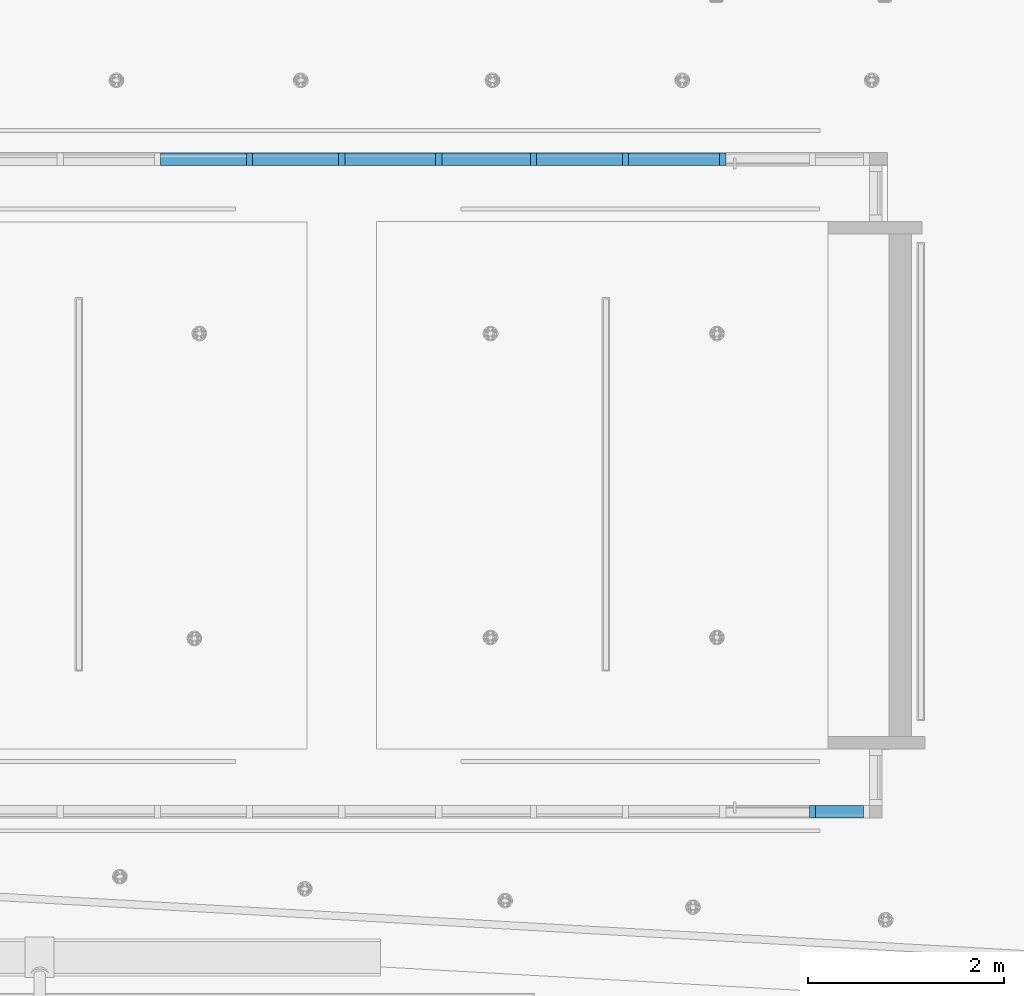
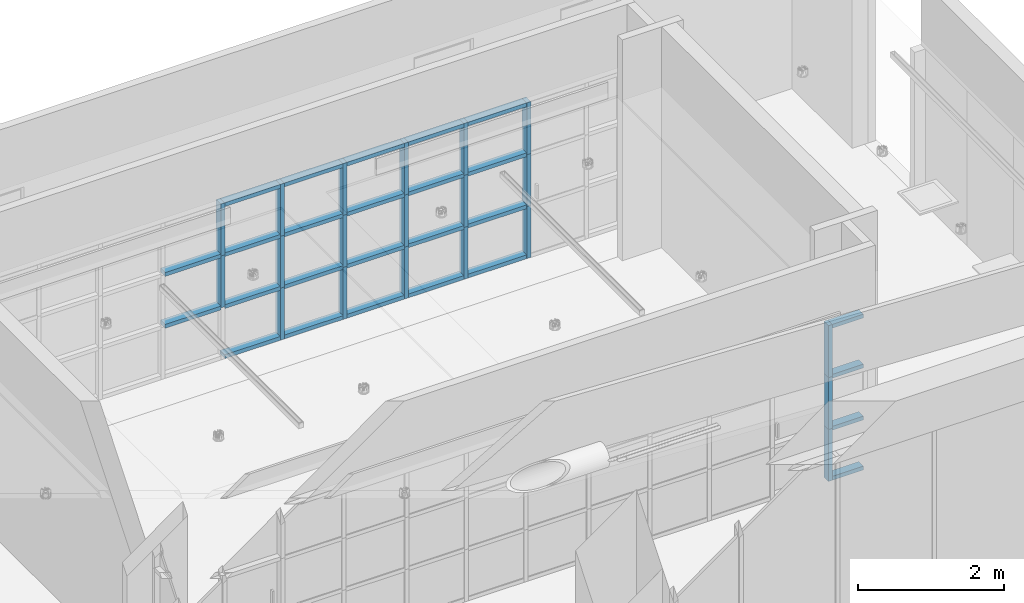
# One storey, part 9 of 108: 46 members, 2 elements without a shape of their own.
"""IFC4 building model written with IfcOpenShell, lengths in feet."""

from ifc_helpers import new_model, entity, si_unit, converted_unit, derived_unit, direction, frame, origin, origin_2d_with_axis, place, context, subcontext, project, spatial, rectangle, extrude, source, transform, mapped, material, material_profile, profile_set, profile_usage, type_object, type_shapes, element, aggregate, save


model = new_model("IFC4")

# Units and contexts
model_context = context("Model", 3, precision=0.0001, world=origin(), true_north=direction((6.12303176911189e-17, 1.0)))
body_context = subcontext(model_context, "Body", "Model", "MODEL_VIEW")
ifc_project = project(units=[converted_unit("LENGTHUNIT", "FOOT", entity("IfcRatioMeasure", 0.3048), si_unit("LENGTHUNIT", "METRE"), dimensions=[1, 0, 0, 0, 0, 0, 0]), converted_unit("AREAUNIT", "SQUARE FOOT", entity("IfcRatioMeasure", 0.09290304), si_unit("AREAUNIT", "SQUARE_METRE"), dimensions=[2, 0, 0, 0, 0, 0, 0]), converted_unit("VOLUMEUNIT", "CUBIC FOOT", entity("IfcRatioMeasure", 0.028316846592), si_unit("VOLUMEUNIT", "CUBIC_METRE"), dimensions=[3, 0, 0, 0, 0, 0, 0]), converted_unit("PLANEANGLEUNIT", "DEGREE", entity("IfcRatioMeasure", 0.0174532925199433), si_unit("PLANEANGLEUNIT", "RADIAN"), dimensions=[0, 0, 0, 0, 0, 0, 0]), si_unit("MASSUNIT", "GRAM", prefix="KILO"), derived_unit("MASSDENSITYUNIT", [(si_unit("MASSUNIT", "GRAM", prefix="KILO"), 1), (si_unit("LENGTHUNIT", "METRE"), -3)]), si_unit("TIMEUNIT", "SECOND"), si_unit("FREQUENCYUNIT", "HERTZ"), si_unit("THERMODYNAMICTEMPERATUREUNIT", "DEGREE_CELSIUS"), derived_unit("THERMALTRANSMITTANCEUNIT", [(si_unit("MASSUNIT", "GRAM", prefix="KILO"), 1), (si_unit("THERMODYNAMICTEMPERATUREUNIT", "KELVIN"), -1), (si_unit("TIMEUNIT", "SECOND"), -3)]), derived_unit("VOLUMETRICFLOWRATEUNIT", [(si_unit("LENGTHUNIT", "METRE"), 3), (si_unit("TIMEUNIT", "SECOND"), -1)]), si_unit("ELECTRICCURRENTUNIT", "AMPERE"), si_unit("ELECTRICVOLTAGEUNIT", "VOLT"), si_unit("POWERUNIT", "WATT"), si_unit("FORCEUNIT", "NEWTON"), si_unit("ILLUMINANCEUNIT", "LUX"), si_unit("LUMINOUSFLUXUNIT", "LUMEN"), si_unit("LUMINOUSINTENSITYUNIT", "CANDELA"), derived_unit("USERDEFINED", [(si_unit("MASSUNIT", "GRAM", prefix="KILO"), -1), (si_unit("LENGTHUNIT", "METRE"), -2), (si_unit("TIMEUNIT", "SECOND"), 3), (si_unit("LUMINOUSFLUXUNIT", "LUMEN"), 1)]), derived_unit("LINEARVELOCITYUNIT", [(si_unit("LENGTHUNIT", "METRE"), 1), (si_unit("TIMEUNIT", "SECOND"), -1)]), si_unit("PRESSUREUNIT", "PASCAL"), derived_unit("USERDEFINED", [(si_unit("LENGTHUNIT", "METRE"), -2), (si_unit("MASSUNIT", "GRAM", prefix="KILO"), 1), (si_unit("TIMEUNIT", "SECOND"), -2)])], contexts=[model_context])

# Site, building, storey
site_placement = place(None, origin())
site = spatial("IfcSite", under=ifc_project, at=site_placement, Name="Default", CompositionType="ELEMENT")
building_placement = place(site_placement, origin())
building = spatial("IfcBuilding", under=site, at=building_placement, CompositionType="ELEMENT")
storey_placement = place(building_placement, frame((0.0, 0.0, 168.0)))
storey = spatial("IfcBuildingStorey", under=building, at=storey_placement, Name="Level 15", CompositionType="ELEMENT", Elevation=168.0)

# Curtain wall, members
curtain_wall_type = type_object("IfcCurtainWallType", Name="Curtain Wall:Storefront 02", PredefinedType="NOTDEFINED")
curtain_wall_1_placement = place(storey_placement, frame((0.0, 0.0, -168.0)))
curtain_wall_1 = element("IfcCurtainWall", 1, at=curtain_wall_1_placement, inside=storey, type_object=curtain_wall_type, Name="Curtain Wall:Storefront 02", ObjectType="Curtain Wall:Storefront 02", PredefinedType="NOTDEFINED")
ifc_material = material(Name="Aluminum", Category="Metal")
ifc_material_profile = material_profile(ifc_material, rectangle(XDim=0.416666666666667, YDim=0.208333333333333, at=origin_2d_with_axis()), Name="2.5\" x 5\" rectangular")
ifc_profile_set = profile_set([ifc_material_profile], Name="2.5\" x 5\" rectangular")
ifc_profile_usage_1 = profile_usage(ifc_profile_set)
member_type_1 = type_object("IfcMemberType", Name="2.5\" x 5\" rectangular", PredefinedType="MEMBER", material=ifc_profile_set)
shared_shape_1 = source(origin(), body_context, "Body", "SweptSolid", [
    extrude(rectangle(XDim=0.416666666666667, YDim=0.208333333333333, at=origin_2d_with_axis()), frame((-0.104166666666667, 0.0, -1.60416666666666), z_axis=(0.0, 0.0, 1.0), x_axis=(0.0, -1.0, 0.0)), (0.0, 0.0, 1.0), 1.60416666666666),
])
type_shapes(member_type_1, [shared_shape_1])
member_1_placement = place(storey_placement, frame((48.4635352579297, -11.8802703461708, 0.0), z_axis=(1.0, 0.0, 0.0), x_axis=(0.0, 0.0, -1.0)))
member_1 = element("IfcMember", 2, at=member_1_placement, type_object=member_type_1, material=ifc_profile_usage_1, Name="Rectangular Mullion:2.5\" x 5\" rectangular", ObjectType="Rectangular Mullion:2.5\" x 5\" rectangular", PredefinedType="MULLION", context=body_context, shape_type="MappedRepresentation", body=[
    mapped(shared_shape_1, transform((0.0, 0.0, 0.0), scale=1.0)),
])
ifc_profile_usage_2 = profile_usage(ifc_profile_set)
member_type_2 = type_object("IfcMemberType", Name="2.5\" x 5\" rectangular", PredefinedType="MEMBER", material=ifc_profile_set)
shared_shape_2 = source(origin(), body_context, "Body", "SweptSolid", [
    extrude(rectangle(XDim=0.416666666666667, YDim=0.208333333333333, at=origin_2d_with_axis()), frame((0.0, 0.0, -2.84094160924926), z_axis=(0.0, 0.0, 1.0), x_axis=(0.0, -1.0, 0.0)), (0.0, 0.0, 1.0), 2.84094160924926),
])
type_shapes(member_type_2, [shared_shape_2])
member_2_placement = place(storey_placement, frame((46.7552019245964, -11.8802703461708, 0.0), z_axis=(0.0, 0.0, -1.0), x_axis=(-1.0, 0.0, 0.0)))
member_2 = element("IfcMember", 3, at=member_2_placement, type_object=member_type_2, material=ifc_profile_usage_2, Name="Rectangular Mullion:2.5\" x 5\" rectangular", ObjectType="Rectangular Mullion:2.5\" x 5\" rectangular", PredefinedType="MULLION", context=body_context, shape_type="MappedRepresentation", body=[
    mapped(shared_shape_2, transform((0.0, 0.0, 0.0), scale=1.0)),
])
ifc_profile_usage_3 = profile_usage(ifc_profile_set)
member_type_3 = type_object("IfcMemberType", Name="2.5\" x 5\" rectangular", PredefinedType="MEMBER", material=ifc_profile_set)
shared_shape_3 = source(origin(), body_context, "Body", "SweptSolid", [
    extrude(rectangle(XDim=0.416666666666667, YDim=0.208333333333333, at=origin_2d_with_axis()), frame((-0.104166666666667, 0.0, -1.60416666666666), z_axis=(0.0, 0.0, 1.0), x_axis=(0.0, -1.0, 0.0)), (0.0, 0.0, 1.0), 1.60416666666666),
])
type_shapes(member_type_3, [shared_shape_3])
member_3_placement = place(storey_placement, frame((46.859368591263, -11.8802703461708, 8.52282482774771), z_axis=(-1.0, 0.0, 0.0), x_axis=(0.0, 0.0, 1.0)))
member_3 = element("IfcMember", 4, at=member_3_placement, type_object=member_type_3, material=ifc_profile_usage_3, Name="Rectangular Mullion:2.5\" x 5\" rectangular", ObjectType="Rectangular Mullion:2.5\" x 5\" rectangular", PredefinedType="MULLION", context=body_context, shape_type="MappedRepresentation", body=[
    mapped(shared_shape_3, transform((0.0, 0.0, 0.0), scale=1.0)),
])
ifc_profile_usage_4 = profile_usage(ifc_profile_set)
member_type_4 = type_object("IfcMemberType", Name="2.5\" x 5\" rectangular", PredefinedType="MEMBER", material=ifc_profile_set)
shared_shape_4 = source(origin(), body_context, "Body", "SweptSolid", [
    extrude(rectangle(XDim=0.416666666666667, YDim=0.208333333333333, at=origin_2d_with_axis()), frame((0.0, 0.0, -1.60416666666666), z_axis=(0.0, 0.0, 1.0), x_axis=(0.0, -1.0, 0.0)), (0.0, 0.0, 1.0), 1.60416666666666),
])
type_shapes(member_type_4, [shared_shape_4])
member_4_placement = place(storey_placement, frame((46.859368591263, -11.8802703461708, 5.68188321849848), z_axis=(-1.0, 0.0, 0.0), x_axis=(0.0, 0.0, 1.0)))
member_4 = element("IfcMember", 5, at=member_4_placement, type_object=member_type_4, material=ifc_profile_usage_4, Name="Rectangular Mullion:2.5\" x 5\" rectangular", ObjectType="Rectangular Mullion:2.5\" x 5\" rectangular", PredefinedType="MULLION", context=body_context, shape_type="MappedRepresentation", body=[
    mapped(shared_shape_4, transform((0.0, 0.0, 0.0), scale=1.0)),
])
ifc_profile_usage_5 = profile_usage(ifc_profile_set)
member_5_placement = place(storey_placement, frame((46.859368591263, -11.8802703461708, 2.84094160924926), z_axis=(-1.0, 0.0, 0.0), x_axis=(0.0, 0.0, 1.0)))
member_5 = element("IfcMember", 6, at=member_5_placement, type_object=member_type_4, material=ifc_profile_usage_5, Name="Rectangular Mullion:2.5\" x 5\" rectangular", ObjectType="Rectangular Mullion:2.5\" x 5\" rectangular", PredefinedType="MULLION", context=body_context, shape_type="MappedRepresentation", body=[
    mapped(shared_shape_4, transform((0.0, 0.0, 0.0), scale=1.0)),
])
ifc_profile_usage_6 = profile_usage(ifc_profile_set)
member_type_5 = type_object("IfcMemberType", Name="2.5\" x 5\" rectangular", PredefinedType="MEMBER", material=ifc_profile_set)
shared_shape_5 = source(origin(), body_context, "Body", "SweptSolid", [
    extrude(rectangle(XDim=0.416666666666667, YDim=0.208333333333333, at=origin_2d_with_axis()), frame((0.0, 0.0, -2.84094160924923), z_axis=(0.0, 0.0, 1.0), x_axis=(0.0, -1.0, 0.0)), (0.0, 0.0, 1.0), 2.84094160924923),
])
type_shapes(member_type_5, [shared_shape_5])
member_6_placement = place(storey_placement, frame((46.7552019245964, -11.8802703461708, 5.68188321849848), z_axis=(0.0, 0.0, -1.0), x_axis=(-1.0, 0.0, 0.0)))
member_6 = element("IfcMember", 7, at=member_6_placement, type_object=member_type_5, material=ifc_profile_usage_6, Name="Rectangular Mullion:2.5\" x 5\" rectangular", ObjectType="Rectangular Mullion:2.5\" x 5\" rectangular", PredefinedType="MULLION", context=body_context, shape_type="MappedRepresentation", body=[
    mapped(shared_shape_5, transform((0.0, 0.0, 0.0), scale=1.0)),
])
ifc_profile_usage_7 = profile_usage(ifc_profile_set)
member_type_6 = type_object("IfcMemberType", Name="2.5\" x 5\" rectangular", PredefinedType="MEMBER", material=ifc_profile_set)
shared_shape_6 = source(origin(), body_context, "Body", "SweptSolid", [
    extrude(rectangle(XDim=0.416666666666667, YDim=0.208333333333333, at=origin_2d_with_axis()), frame((0.0, 0.0, -2.84094160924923), z_axis=(0.0, 0.0, 1.0), x_axis=(0.0, -1.0, 0.0)), (0.0, 0.0, 1.0), 2.84094160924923),
])
type_shapes(member_type_6, [shared_shape_6])
member_7_placement = place(storey_placement, frame((46.7552019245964, -11.8802703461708, 2.84094160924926), z_axis=(0.0, 0.0, -1.0), x_axis=(-1.0, 0.0, 0.0)))
member_7 = element("IfcMember", 8, at=member_7_placement, type_object=member_type_6, material=ifc_profile_usage_7, Name="Rectangular Mullion:2.5\" x 5\" rectangular", ObjectType="Rectangular Mullion:2.5\" x 5\" rectangular", PredefinedType="MULLION", context=body_context, shape_type="MappedRepresentation", body=[
    mapped(shared_shape_6, transform((0.0, 0.0, 0.0), scale=1.0)),
])
aggregate(curtain_wall_1, [member_1, member_3, member_2, member_4, member_6, member_5, member_7])

curtain_wall_2_placement = place(storey_placement, frame((0.0, 0.0, -168.0)))
curtain_wall_2 = element("IfcCurtainWall", 9, at=curtain_wall_2_placement, inside=storey, type_object=curtain_wall_type, Name="Curtain Wall:Storefront 02", ObjectType="Curtain Wall:Storefront 02", PredefinedType="NOTDEFINED")
ifc_profile_usage_8 = profile_usage(ifc_profile_set)
member_type_7 = type_object("IfcMemberType", Name="2.5\" x 5\" rectangular", PredefinedType="MEMBER", material=ifc_profile_set)
shared_shape_7 = source(origin(), body_context, "Body", "SweptSolid", [
    extrude(rectangle(XDim=0.416666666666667, YDim=0.208333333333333, at=origin_2d_with_axis()), frame((0.0, 0.0, -2.84094160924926), z_axis=(0.0, 0.0, 1.0), x_axis=(0.0, -1.0, 0.0)), (0.0, 0.0, 1.0), 2.84094160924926),
])
type_shapes(member_type_7, [shared_shape_7])
member_8_placement = place(storey_placement, frame((31.0053706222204, 9.96064959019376, 0.0), z_axis=(0.0, 0.0, -1.0), x_axis=(-1.0, 0.0, 0.0)))
member_8 = element("IfcMember", 10, at=member_8_placement, type_object=member_type_7, material=ifc_profile_usage_8, Name="Rectangular Mullion:2.5\" x 5\" rectangular", ObjectType="Rectangular Mullion:2.5\" x 5\" rectangular", PredefinedType="MULLION", context=body_context, shape_type="MappedRepresentation", body=[
    mapped(shared_shape_7, transform((0.0, 0.0, 0.0), scale=1.0)),
])
ifc_profile_usage_9 = profile_usage(ifc_profile_set)
member_9_placement = place(storey_placement, frame((34.2553706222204, 9.96064959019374, 0.0), z_axis=(0.0, 0.0, -1.0), x_axis=(-1.0, 0.0, 0.0)))
member_9 = element("IfcMember", 11, at=member_9_placement, type_object=member_type_7, material=ifc_profile_usage_9, Name="Rectangular Mullion:2.5\" x 5\" rectangular", ObjectType="Rectangular Mullion:2.5\" x 5\" rectangular", PredefinedType="MULLION", context=body_context, shape_type="MappedRepresentation", body=[
    mapped(shared_shape_7, transform((0.0, 0.0, 0.0), scale=1.0)),
])
ifc_profile_usage_10 = profile_usage(ifc_profile_set)
member_10_placement = place(storey_placement, frame((37.4220372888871, 9.96064959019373, 0.0), z_axis=(0.0, 0.0, -1.0), x_axis=(-1.0, 0.0, 0.0)))
member_10 = element("IfcMember", 12, at=member_10_placement, type_object=member_type_7, material=ifc_profile_usage_10, Name="Rectangular Mullion:2.5\" x 5\" rectangular", ObjectType="Rectangular Mullion:2.5\" x 5\" rectangular", PredefinedType="MULLION", context=body_context, shape_type="MappedRepresentation", body=[
    mapped(shared_shape_7, transform((0.0, 0.0, 0.0), scale=1.0)),
])
ifc_profile_usage_11 = profile_usage(ifc_profile_set)
member_11_placement = place(storey_placement, frame((40.5053706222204, 9.96064959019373, 0.0), z_axis=(0.0, 0.0, -1.0), x_axis=(-1.0, 0.0, 0.0)))
member_11 = element("IfcMember", 13, at=member_11_placement, type_object=member_type_7, material=ifc_profile_usage_11, Name="Rectangular Mullion:2.5\" x 5\" rectangular", ObjectType="Rectangular Mullion:2.5\" x 5\" rectangular", PredefinedType="MULLION", context=body_context, shape_type="MappedRepresentation", body=[
    mapped(shared_shape_7, transform((0.0, 0.0, 0.0), scale=1.0)),
])
ifc_profile_usage_12 = profile_usage(ifc_profile_set)
member_12_placement = place(storey_placement, frame((43.7553706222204, 9.96064959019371, 0.0), z_axis=(0.0, 0.0, -1.0), x_axis=(-1.0, 0.0, 0.0)))
member_12 = element("IfcMember", 14, at=member_12_placement, type_object=member_type_7, material=ifc_profile_usage_12, Name="Rectangular Mullion:2.5\" x 5\" rectangular", ObjectType="Rectangular Mullion:2.5\" x 5\" rectangular", PredefinedType="MULLION", context=body_context, shape_type="MappedRepresentation", body=[
    mapped(shared_shape_7, transform((0.0, 0.0, 0.0), scale=1.0)),
])
ifc_profile_usage_13 = profile_usage(ifc_profile_set)
member_type_8 = type_object("IfcMemberType", Name="2.5\" x 5\" rectangular", PredefinedType="MEMBER", material=ifc_profile_set)
shared_shape_8 = source(origin(), body_context, "Body", "SweptSolid", [
    extrude(rectangle(XDim=0.416666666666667, YDim=0.208333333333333, at=origin_2d_with_axis()), frame((-0.104166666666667, 0.0, -2.95833333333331), z_axis=(0.0, 0.0, 1.0), x_axis=(0.0, -1.0, 0.0)), (0.0, 0.0, 1.0), 2.95833333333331),
])
type_shapes(member_type_8, [shared_shape_8])
member_13_placement = place(storey_placement, frame((34.3595372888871, 9.96064959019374, 8.52282482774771), z_axis=(-1.0, 0.0, 0.0), x_axis=(0.0, 0.0, 1.0)))
member_13 = element("IfcMember", 15, at=member_13_placement, type_object=member_type_8, material=ifc_profile_usage_13, Name="Rectangular Mullion:2.5\" x 5\" rectangular", ObjectType="Rectangular Mullion:2.5\" x 5\" rectangular", PredefinedType="MULLION", context=body_context, shape_type="MappedRepresentation", body=[
    mapped(shared_shape_8, transform((0.0, 0.0, 0.0), scale=1.0)),
])
ifc_profile_usage_14 = profile_usage(ifc_profile_set)
member_type_9 = type_object("IfcMemberType", Name="2.5\" x 5\" rectangular", PredefinedType="MEMBER", material=ifc_profile_set)
shared_shape_9 = source(origin(), body_context, "Body", "SweptSolid", [
    extrude(rectangle(XDim=0.416666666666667, YDim=0.208333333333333, at=origin_2d_with_axis()), frame((-0.104166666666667, 0.0, -3.04166666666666), z_axis=(0.0, 0.0, 1.0), x_axis=(0.0, -1.0, 0.0)), (0.0, 0.0, 1.0), 3.04166666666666),
])
type_shapes(member_type_9, [shared_shape_9])
member_14_placement = place(storey_placement, frame((31.1095372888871, 9.96064959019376, 8.52282482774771), z_axis=(-1.0, 0.0, 0.0), x_axis=(0.0, 0.0, 1.0)))
member_14 = element("IfcMember", 16, at=member_14_placement, type_object=member_type_9, material=ifc_profile_usage_14, Name="Rectangular Mullion:2.5\" x 5\" rectangular", ObjectType="Rectangular Mullion:2.5\" x 5\" rectangular", PredefinedType="MULLION", context=body_context, shape_type="MappedRepresentation", body=[
    mapped(shared_shape_9, transform((0.0, 0.0, 0.0), scale=1.0)),
])
ifc_profile_usage_15 = profile_usage(ifc_profile_set)
member_15_placement = place(storey_placement, frame((40.6095372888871, 9.96064959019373, 8.52282482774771), z_axis=(-1.0, 0.0, 0.0), x_axis=(0.0, 0.0, 1.0)))
member_15 = element("IfcMember", 17, at=member_15_placement, type_object=member_type_9, material=ifc_profile_usage_15, Name="Rectangular Mullion:2.5\" x 5\" rectangular", ObjectType="Rectangular Mullion:2.5\" x 5\" rectangular", PredefinedType="MULLION", context=body_context, shape_type="MappedRepresentation", body=[
    mapped(shared_shape_9, transform((0.0, 0.0, 0.0), scale=1.0)),
])
ifc_profile_usage_16 = profile_usage(ifc_profile_set)
member_type_10 = type_object("IfcMemberType", Name="2.5\" x 5\" rectangular", PredefinedType="MEMBER", material=ifc_profile_set)
shared_shape_10 = source(origin(), body_context, "Body", "SweptSolid", [
    extrude(rectangle(XDim=0.416666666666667, YDim=0.208333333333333, at=origin_2d_with_axis()), frame((-0.104166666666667, 0.0, -2.95833333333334), z_axis=(0.0, 0.0, 1.0), x_axis=(0.0, -1.0, 0.0)), (0.0, 0.0, 1.0), 2.95833333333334),
])
type_shapes(member_type_10, [shared_shape_10])
member_16_placement = place(storey_placement, frame((37.3178706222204, 9.96064959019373, 0.0), z_axis=(1.0, 0.0, 0.0), x_axis=(0.0, 0.0, -1.0)))
member_16 = element("IfcMember", 18, at=member_16_placement, type_object=member_type_10, material=ifc_profile_usage_16, Name="Rectangular Mullion:2.5\" x 5\" rectangular", ObjectType="Rectangular Mullion:2.5\" x 5\" rectangular", PredefinedType="MULLION", context=body_context, shape_type="MappedRepresentation", body=[
    mapped(shared_shape_10, transform((0.0, 0.0, 0.0), scale=1.0)),
])
ifc_profile_usage_17 = profile_usage(ifc_profile_set)
member_type_11 = type_object("IfcMemberType", Name="2.5\" x 5\" rectangular", PredefinedType="MEMBER", material=ifc_profile_set)
shared_shape_11 = source(origin(), body_context, "Body", "SweptSolid", [
    extrude(rectangle(XDim=0.416666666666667, YDim=0.208333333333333, at=origin_2d_with_axis()), frame((-0.104166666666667, 0.0, -2.875), z_axis=(0.0, 0.0, 1.0), x_axis=(0.0, -1.0, 0.0)), (0.0, 0.0, 1.0), 2.875),
])
type_shapes(member_type_11, [shared_shape_11])
member_17_placement = place(storey_placement, frame((28.0262039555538, 9.96064959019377, 8.52282482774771), z_axis=(-1.0, 0.0, 0.0), x_axis=(0.0, 0.0, 1.0)))
member_17 = element("IfcMember", 19, at=member_17_placement, type_object=member_type_11, material=ifc_profile_usage_17, Name="Rectangular Mullion:2.5\" x 5\" rectangular", ObjectType="Rectangular Mullion:2.5\" x 5\" rectangular", PredefinedType="MULLION", context=body_context, shape_type="MappedRepresentation", body=[
    mapped(shared_shape_11, transform((0.0, 0.0, 0.0), scale=1.0)),
])
ifc_profile_usage_18 = profile_usage(ifc_profile_set)
member_18_placement = place(storey_placement, frame((37.5262039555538, 9.96064959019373, 8.52282482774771), z_axis=(-1.0, 0.0, 0.0), x_axis=(0.0, 0.0, 1.0)))
member_18 = element("IfcMember", 20, at=member_18_placement, type_object=member_type_11, material=ifc_profile_usage_18, Name="Rectangular Mullion:2.5\" x 5\" rectangular", ObjectType="Rectangular Mullion:2.5\" x 5\" rectangular", PredefinedType="MULLION", context=body_context, shape_type="MappedRepresentation", body=[
    mapped(shared_shape_11, transform((0.0, 0.0, 0.0), scale=1.0)),
])
ifc_profile_usage_19 = profile_usage(ifc_profile_set)
member_type_12 = type_object("IfcMemberType", Name="2.5\" x 5\" rectangular", PredefinedType="MEMBER", material=ifc_profile_set)
shared_shape_12 = source(origin(), body_context, "Body", "SweptSolid", [
    extrude(rectangle(XDim=0.416666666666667, YDim=0.208333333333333, at=origin_2d_with_axis()), frame((-0.104166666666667, 0.0, -3.04166666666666), z_axis=(0.0, 0.0, 1.0), x_axis=(0.0, -1.0, 0.0)), (0.0, 0.0, 1.0), 3.04166666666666),
])
type_shapes(member_type_12, [shared_shape_12])
member_19_placement = place(storey_placement, frame((34.1512039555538, 9.96064959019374, 0.0), z_axis=(1.0, 0.0, 0.0), x_axis=(0.0, 0.0, -1.0)))
member_19 = element("IfcMember", 21, at=member_19_placement, type_object=member_type_12, material=ifc_profile_usage_19, Name="Rectangular Mullion:2.5\" x 5\" rectangular", ObjectType="Rectangular Mullion:2.5\" x 5\" rectangular", PredefinedType="MULLION", context=body_context, shape_type="MappedRepresentation", body=[
    mapped(shared_shape_12, transform((0.0, 0.0, 0.0), scale=1.0)),
])
ifc_profile_usage_20 = profile_usage(ifc_profile_set)
member_20_placement = place(storey_placement, frame((43.6512039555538, 9.96064959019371, 0.0), z_axis=(1.0, 0.0, 0.0), x_axis=(0.0, 0.0, -1.0)))
member_20 = element("IfcMember", 22, at=member_20_placement, type_object=member_type_12, material=ifc_profile_usage_20, Name="Rectangular Mullion:2.5\" x 5\" rectangular", ObjectType="Rectangular Mullion:2.5\" x 5\" rectangular", PredefinedType="MULLION", context=body_context, shape_type="MappedRepresentation", body=[
    mapped(shared_shape_12, transform((0.0, 0.0, 0.0), scale=1.0)),
])
ifc_profile_usage_21 = profile_usage(ifc_profile_set)
member_type_13 = type_object("IfcMemberType", Name="2.5\" x 5\" rectangular", PredefinedType="MEMBER", material=ifc_profile_set)
shared_shape_13 = source(origin(), body_context, "Body", "SweptSolid", [
    extrude(rectangle(XDim=0.416666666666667, YDim=0.208333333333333, at=origin_2d_with_axis()), frame((-0.104166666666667, 0.0, -2.875), z_axis=(0.0, 0.0, 1.0), x_axis=(0.0, -1.0, 0.0)), (0.0, 0.0, 1.0), 2.875),
])
type_shapes(member_type_13, [shared_shape_13])
member_21_placement = place(storey_placement, frame((30.9012039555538, 9.96064959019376, 0.0), z_axis=(1.0, 0.0, 0.0), x_axis=(0.0, 0.0, -1.0)))
member_21 = element("IfcMember", 23, at=member_21_placement, type_object=member_type_13, material=ifc_profile_usage_21, Name="Rectangular Mullion:2.5\" x 5\" rectangular", ObjectType="Rectangular Mullion:2.5\" x 5\" rectangular", PredefinedType="MULLION", context=body_context, shape_type="MappedRepresentation", body=[
    mapped(shared_shape_13, transform((0.0, 0.0, 0.0), scale=1.0)),
])
ifc_profile_usage_22 = profile_usage(ifc_profile_set)
member_22_placement = place(storey_placement, frame((40.4012039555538, 9.96064959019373, 0.0), z_axis=(1.0, 0.0, 0.0), x_axis=(0.0, 0.0, -1.0)))
member_22 = element("IfcMember", 24, at=member_22_placement, type_object=member_type_13, material=ifc_profile_usage_22, Name="Rectangular Mullion:2.5\" x 5\" rectangular", ObjectType="Rectangular Mullion:2.5\" x 5\" rectangular", PredefinedType="MULLION", context=body_context, shape_type="MappedRepresentation", body=[
    mapped(shared_shape_13, transform((0.0, 0.0, 0.0), scale=1.0)),
])
ifc_profile_usage_23 = profile_usage(ifc_profile_set)
member_type_14 = type_object("IfcMemberType", Name="2.5\" x 5\" rectangular", PredefinedType="MEMBER", material=ifc_profile_set)
shared_shape_14 = source(origin(), body_context, "Body", "SweptSolid", [
    extrude(rectangle(XDim=0.416666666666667, YDim=0.208333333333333, at=origin_2d_with_axis()), frame((0.0, 0.0, -3.04166666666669), z_axis=(0.0, 0.0, 1.0), x_axis=(0.0, -1.0, 0.0)), (0.0, 0.0, 1.0), 3.04166666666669),
])
type_shapes(member_type_14, [shared_shape_14])
member_23_placement = place(storey_placement, frame((40.6095372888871, 9.96064959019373, 5.68188321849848), z_axis=(-1.0, 0.0, 0.0), x_axis=(0.0, 0.0, 1.0)))
member_23 = element("IfcMember", 25, at=member_23_placement, type_object=member_type_14, material=ifc_profile_usage_23, Name="Rectangular Mullion:2.5\" x 5\" rectangular", ObjectType="Rectangular Mullion:2.5\" x 5\" rectangular", PredefinedType="MULLION", context=body_context, shape_type="MappedRepresentation", body=[
    mapped(shared_shape_14, transform((0.0, 0.0, 0.0), scale=1.0)),
])
ifc_profile_usage_24 = profile_usage(ifc_profile_set)
member_24_placement = place(storey_placement, frame((31.1095372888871, 9.96064959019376, 5.68188321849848), z_axis=(-1.0, 0.0, 0.0), x_axis=(0.0, 0.0, 1.0)))
member_24 = element("IfcMember", 26, at=member_24_placement, type_object=member_type_14, material=ifc_profile_usage_24, Name="Rectangular Mullion:2.5\" x 5\" rectangular", ObjectType="Rectangular Mullion:2.5\" x 5\" rectangular", PredefinedType="MULLION", context=body_context, shape_type="MappedRepresentation", body=[
    mapped(shared_shape_14, transform((0.0, 0.0, 0.0), scale=1.0)),
])
ifc_profile_usage_25 = profile_usage(ifc_profile_set)
member_25_placement = place(storey_placement, frame((40.6095372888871, 9.96064959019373, 2.84094160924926), z_axis=(-1.0, 0.0, 0.0), x_axis=(0.0, 0.0, 1.0)))
member_25 = element("IfcMember", 27, at=member_25_placement, type_object=member_type_14, material=ifc_profile_usage_25, Name="Rectangular Mullion:2.5\" x 5\" rectangular", ObjectType="Rectangular Mullion:2.5\" x 5\" rectangular", PredefinedType="MULLION", context=body_context, shape_type="MappedRepresentation", body=[
    mapped(shared_shape_14, transform((0.0, 0.0, 0.0), scale=1.0)),
])
ifc_profile_usage_26 = profile_usage(ifc_profile_set)
member_26_placement = place(storey_placement, frame((31.1095372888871, 9.96064959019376, 2.84094160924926), z_axis=(-1.0, 0.0, 0.0), x_axis=(0.0, 0.0, 1.0)))
member_26 = element("IfcMember", 28, at=member_26_placement, type_object=member_type_14, material=ifc_profile_usage_26, Name="Rectangular Mullion:2.5\" x 5\" rectangular", ObjectType="Rectangular Mullion:2.5\" x 5\" rectangular", PredefinedType="MULLION", context=body_context, shape_type="MappedRepresentation", body=[
    mapped(shared_shape_14, transform((0.0, 0.0, 0.0), scale=1.0)),
])
ifc_profile_usage_27 = profile_usage(ifc_profile_set)
member_type_15 = type_object("IfcMemberType", Name="2.5\" x 5\" rectangular", PredefinedType="MEMBER", material=ifc_profile_set)
shared_shape_15 = source(origin(), body_context, "Body", "SweptSolid", [
    extrude(rectangle(XDim=0.416666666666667, YDim=0.208333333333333, at=origin_2d_with_axis()), frame((0.0, 0.0, -2.875), z_axis=(0.0, 0.0, 1.0), x_axis=(0.0, -1.0, 0.0)), (0.0, 0.0, 1.0), 2.875),
])
type_shapes(member_type_15, [shared_shape_15])
member_27_placement = place(storey_placement, frame((37.5262039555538, 9.96064959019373, 5.68188321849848), z_axis=(-1.0, 0.0, 0.0), x_axis=(0.0, 0.0, 1.0)))
member_27 = element("IfcMember", 29, at=member_27_placement, type_object=member_type_15, material=ifc_profile_usage_27, Name="Rectangular Mullion:2.5\" x 5\" rectangular", ObjectType="Rectangular Mullion:2.5\" x 5\" rectangular", PredefinedType="MULLION", context=body_context, shape_type="MappedRepresentation", body=[
    mapped(shared_shape_15, transform((0.0, 0.0, 0.0), scale=1.0)),
])
ifc_profile_usage_28 = profile_usage(ifc_profile_set)
member_28_placement = place(storey_placement, frame((28.0262039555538, 9.96064959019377, 5.68188321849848), z_axis=(-1.0, 0.0, 0.0), x_axis=(0.0, 0.0, 1.0)))
member_28 = element("IfcMember", 30, at=member_28_placement, type_object=member_type_15, material=ifc_profile_usage_28, Name="Rectangular Mullion:2.5\" x 5\" rectangular", ObjectType="Rectangular Mullion:2.5\" x 5\" rectangular", PredefinedType="MULLION", context=body_context, shape_type="MappedRepresentation", body=[
    mapped(shared_shape_15, transform((0.0, 0.0, 0.0), scale=1.0)),
])
ifc_profile_usage_29 = profile_usage(ifc_profile_set)
member_29_placement = place(storey_placement, frame((24.9428706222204, 9.96064959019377, 5.68188321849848), z_axis=(-1.0, 0.0, 0.0), x_axis=(0.0, 0.0, 1.0)))
member_29 = element("IfcMember", 31, at=member_29_placement, type_object=member_type_15, material=ifc_profile_usage_29, Name="Rectangular Mullion:2.5\" x 5\" rectangular", ObjectType="Rectangular Mullion:2.5\" x 5\" rectangular", PredefinedType="MULLION", context=body_context, shape_type="MappedRepresentation", body=[
    mapped(shared_shape_15, transform((0.0, 0.0, 0.0), scale=1.0)),
])
ifc_profile_usage_30 = profile_usage(ifc_profile_set)
member_30_placement = place(storey_placement, frame((37.5262039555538, 9.96064959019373, 2.84094160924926), z_axis=(-1.0, 0.0, 0.0), x_axis=(0.0, 0.0, 1.0)))
member_30 = element("IfcMember", 32, at=member_30_placement, type_object=member_type_15, material=ifc_profile_usage_30, Name="Rectangular Mullion:2.5\" x 5\" rectangular", ObjectType="Rectangular Mullion:2.5\" x 5\" rectangular", PredefinedType="MULLION", context=body_context, shape_type="MappedRepresentation", body=[
    mapped(shared_shape_15, transform((0.0, 0.0, 0.0), scale=1.0)),
])
ifc_profile_usage_31 = profile_usage(ifc_profile_set)
member_31_placement = place(storey_placement, frame((28.0262039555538, 9.96064959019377, 2.84094160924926), z_axis=(-1.0, 0.0, 0.0), x_axis=(0.0, 0.0, 1.0)))
member_31 = element("IfcMember", 33, at=member_31_placement, type_object=member_type_15, material=ifc_profile_usage_31, Name="Rectangular Mullion:2.5\" x 5\" rectangular", ObjectType="Rectangular Mullion:2.5\" x 5\" rectangular", PredefinedType="MULLION", context=body_context, shape_type="MappedRepresentation", body=[
    mapped(shared_shape_15, transform((0.0, 0.0, 0.0), scale=1.0)),
])
ifc_profile_usage_32 = profile_usage(ifc_profile_set)
member_32_placement = place(storey_placement, frame((24.9428706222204, 9.96064959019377, 2.84094160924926), z_axis=(-1.0, 0.0, 0.0), x_axis=(0.0, 0.0, 1.0)))
member_32 = element("IfcMember", 34, at=member_32_placement, type_object=member_type_15, material=ifc_profile_usage_32, Name="Rectangular Mullion:2.5\" x 5\" rectangular", ObjectType="Rectangular Mullion:2.5\" x 5\" rectangular", PredefinedType="MULLION", context=body_context, shape_type="MappedRepresentation", body=[
    mapped(shared_shape_15, transform((0.0, 0.0, 0.0), scale=1.0)),
])
ifc_profile_usage_33 = profile_usage(ifc_profile_set)
member_type_16 = type_object("IfcMemberType", Name="2.5\" x 5\" rectangular", PredefinedType="MEMBER", material=ifc_profile_set)
shared_shape_16 = source(origin(), body_context, "Body", "SweptSolid", [
    extrude(rectangle(XDim=0.416666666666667, YDim=0.208333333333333, at=origin_2d_with_axis()), frame((0.0, 0.0, -2.95833333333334), z_axis=(0.0, 0.0, 1.0), x_axis=(0.0, -1.0, 0.0)), (0.0, 0.0, 1.0), 2.95833333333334),
])
type_shapes(member_type_16, [shared_shape_16])
member_33_placement = place(storey_placement, frame((34.3595372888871, 9.96064959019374, 5.68188321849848), z_axis=(-1.0, 0.0, 0.0), x_axis=(0.0, 0.0, 1.0)))
member_33 = element("IfcMember", 35, at=member_33_placement, type_object=member_type_16, material=ifc_profile_usage_33, Name="Rectangular Mullion:2.5\" x 5\" rectangular", ObjectType="Rectangular Mullion:2.5\" x 5\" rectangular", PredefinedType="MULLION", context=body_context, shape_type="MappedRepresentation", body=[
    mapped(shared_shape_16, transform((0.0, 0.0, 0.0), scale=1.0)),
])
ifc_profile_usage_34 = profile_usage(ifc_profile_set)
member_34_placement = place(storey_placement, frame((34.3595372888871, 9.96064959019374, 2.84094160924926), z_axis=(-1.0, 0.0, 0.0), x_axis=(0.0, 0.0, 1.0)))
member_34 = element("IfcMember", 36, at=member_34_placement, type_object=member_type_16, material=ifc_profile_usage_34, Name="Rectangular Mullion:2.5\" x 5\" rectangular", ObjectType="Rectangular Mullion:2.5\" x 5\" rectangular", PredefinedType="MULLION", context=body_context, shape_type="MappedRepresentation", body=[
    mapped(shared_shape_16, transform((0.0, 0.0, 0.0), scale=1.0)),
])
ifc_profile_usage_35 = profile_usage(ifc_profile_set)
member_type_17 = type_object("IfcMemberType", Name="2.5\" x 5\" rectangular", PredefinedType="MEMBER", material=ifc_profile_set)
shared_shape_17 = source(origin(), body_context, "Body", "SweptSolid", [
    extrude(rectangle(XDim=0.416666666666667, YDim=0.208333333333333, at=origin_2d_with_axis()), frame((0.0, 0.0, -2.84094160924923), z_axis=(0.0, 0.0, 1.0), x_axis=(0.0, -1.0, 0.0)), (0.0, 0.0, 1.0), 2.84094160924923),
])
type_shapes(member_type_17, [shared_shape_17])
member_35_placement = place(storey_placement, frame((43.7553706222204, 9.96064959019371, 5.68188321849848), z_axis=(0.0, 0.0, -1.0), x_axis=(-1.0, 0.0, 0.0)))
member_35 = element("IfcMember", 37, at=member_35_placement, type_object=member_type_17, material=ifc_profile_usage_35, Name="Rectangular Mullion:2.5\" x 5\" rectangular", ObjectType="Rectangular Mullion:2.5\" x 5\" rectangular", PredefinedType="MULLION", context=body_context, shape_type="MappedRepresentation", body=[
    mapped(shared_shape_17, transform((0.0, 0.0, 0.0), scale=1.0)),
])
ifc_profile_usage_36 = profile_usage(ifc_profile_set)
member_36_placement = place(storey_placement, frame((40.5053706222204, 9.96064959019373, 5.68188321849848), z_axis=(0.0, 0.0, -1.0), x_axis=(-1.0, 0.0, 0.0)))
member_36 = element("IfcMember", 38, at=member_36_placement, type_object=member_type_17, material=ifc_profile_usage_36, Name="Rectangular Mullion:2.5\" x 5\" rectangular", ObjectType="Rectangular Mullion:2.5\" x 5\" rectangular", PredefinedType="MULLION", context=body_context, shape_type="MappedRepresentation", body=[
    mapped(shared_shape_17, transform((0.0, 0.0, 0.0), scale=1.0)),
])
ifc_profile_usage_37 = profile_usage(ifc_profile_set)
member_37_placement = place(storey_placement, frame((37.4220372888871, 9.96064959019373, 5.68188321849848), z_axis=(0.0, 0.0, -1.0), x_axis=(-1.0, 0.0, 0.0)))
member_37 = element("IfcMember", 39, at=member_37_placement, type_object=member_type_17, material=ifc_profile_usage_37, Name="Rectangular Mullion:2.5\" x 5\" rectangular", ObjectType="Rectangular Mullion:2.5\" x 5\" rectangular", PredefinedType="MULLION", context=body_context, shape_type="MappedRepresentation", body=[
    mapped(shared_shape_17, transform((0.0, 0.0, 0.0), scale=1.0)),
])
ifc_profile_usage_38 = profile_usage(ifc_profile_set)
member_38_placement = place(storey_placement, frame((34.2553706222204, 9.96064959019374, 5.68188321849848), z_axis=(0.0, 0.0, -1.0), x_axis=(-1.0, 0.0, 0.0)))
member_38 = element("IfcMember", 40, at=member_38_placement, type_object=member_type_17, material=ifc_profile_usage_38, Name="Rectangular Mullion:2.5\" x 5\" rectangular", ObjectType="Rectangular Mullion:2.5\" x 5\" rectangular", PredefinedType="MULLION", context=body_context, shape_type="MappedRepresentation", body=[
    mapped(shared_shape_17, transform((0.0, 0.0, 0.0), scale=1.0)),
])
ifc_profile_usage_39 = profile_usage(ifc_profile_set)
member_39_placement = place(storey_placement, frame((31.0053706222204, 9.96064959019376, 5.68188321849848), z_axis=(0.0, 0.0, -1.0), x_axis=(-1.0, 0.0, 0.0)))
member_39 = element("IfcMember", 41, at=member_39_placement, type_object=member_type_17, material=ifc_profile_usage_39, Name="Rectangular Mullion:2.5\" x 5\" rectangular", ObjectType="Rectangular Mullion:2.5\" x 5\" rectangular", PredefinedType="MULLION", context=body_context, shape_type="MappedRepresentation", body=[
    mapped(shared_shape_17, transform((0.0, 0.0, 0.0), scale=1.0)),
])
ifc_profile_usage_40 = profile_usage(ifc_profile_set)
member_40_placement = place(storey_placement, frame((27.9220372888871, 9.96064959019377, 5.68188321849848), z_axis=(0.0, 0.0, -1.0), x_axis=(-1.0, 0.0, 0.0)))
member_40 = element("IfcMember", 42, at=member_40_placement, type_object=member_type_17, material=ifc_profile_usage_40, Name="Rectangular Mullion:2.5\" x 5\" rectangular", ObjectType="Rectangular Mullion:2.5\" x 5\" rectangular", PredefinedType="MULLION", context=body_context, shape_type="MappedRepresentation", body=[
    mapped(shared_shape_17, transform((0.0, 0.0, 0.0), scale=1.0)),
])
ifc_profile_usage_41 = profile_usage(ifc_profile_set)
member_type_18 = type_object("IfcMemberType", Name="2.5\" x 5\" rectangular", PredefinedType="MEMBER", material=ifc_profile_set)
shared_shape_18 = source(origin(), body_context, "Body", "SweptSolid", [
    extrude(rectangle(XDim=0.416666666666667, YDim=0.208333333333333, at=origin_2d_with_axis()), frame((0.0, 0.0, -2.84094160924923), z_axis=(0.0, 0.0, 1.0), x_axis=(0.0, -1.0, 0.0)), (0.0, 0.0, 1.0), 2.84094160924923),
])
type_shapes(member_type_18, [shared_shape_18])
member_41_placement = place(storey_placement, frame((43.7553706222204, 9.96064959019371, 2.84094160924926), z_axis=(0.0, 0.0, -1.0), x_axis=(-1.0, 0.0, 0.0)))
member_41 = element("IfcMember", 43, at=member_41_placement, type_object=member_type_18, material=ifc_profile_usage_41, Name="Rectangular Mullion:2.5\" x 5\" rectangular", ObjectType="Rectangular Mullion:2.5\" x 5\" rectangular", PredefinedType="MULLION", context=body_context, shape_type="MappedRepresentation", body=[
    mapped(shared_shape_18, transform((0.0, 0.0, 0.0), scale=1.0)),
])
ifc_profile_usage_42 = profile_usage(ifc_profile_set)
member_42_placement = place(storey_placement, frame((40.5053706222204, 9.96064959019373, 2.84094160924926), z_axis=(0.0, 0.0, -1.0), x_axis=(-1.0, 0.0, 0.0)))
member_42 = element("IfcMember", 44, at=member_42_placement, type_object=member_type_18, material=ifc_profile_usage_42, Name="Rectangular Mullion:2.5\" x 5\" rectangular", ObjectType="Rectangular Mullion:2.5\" x 5\" rectangular", PredefinedType="MULLION", context=body_context, shape_type="MappedRepresentation", body=[
    mapped(shared_shape_18, transform((0.0, 0.0, 0.0), scale=1.0)),
])
ifc_profile_usage_43 = profile_usage(ifc_profile_set)
member_43_placement = place(storey_placement, frame((37.4220372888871, 9.96064959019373, 2.84094160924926), z_axis=(0.0, 0.0, -1.0), x_axis=(-1.0, 0.0, 0.0)))
member_43 = element("IfcMember", 45, at=member_43_placement, type_object=member_type_18, material=ifc_profile_usage_43, Name="Rectangular Mullion:2.5\" x 5\" rectangular", ObjectType="Rectangular Mullion:2.5\" x 5\" rectangular", PredefinedType="MULLION", context=body_context, shape_type="MappedRepresentation", body=[
    mapped(shared_shape_18, transform((0.0, 0.0, 0.0), scale=1.0)),
])
ifc_profile_usage_44 = profile_usage(ifc_profile_set)
member_44_placement = place(storey_placement, frame((34.2553706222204, 9.96064959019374, 2.84094160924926), z_axis=(0.0, 0.0, -1.0), x_axis=(-1.0, 0.0, 0.0)))
member_44 = element("IfcMember", 46, at=member_44_placement, type_object=member_type_18, material=ifc_profile_usage_44, Name="Rectangular Mullion:2.5\" x 5\" rectangular", ObjectType="Rectangular Mullion:2.5\" x 5\" rectangular", PredefinedType="MULLION", context=body_context, shape_type="MappedRepresentation", body=[
    mapped(shared_shape_18, transform((0.0, 0.0, 0.0), scale=1.0)),
])
ifc_profile_usage_45 = profile_usage(ifc_profile_set)
member_45_placement = place(storey_placement, frame((31.0053706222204, 9.96064959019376, 2.84094160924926), z_axis=(0.0, 0.0, -1.0), x_axis=(-1.0, 0.0, 0.0)))
member_45 = element("IfcMember", 47, at=member_45_placement, type_object=member_type_18, material=ifc_profile_usage_45, Name="Rectangular Mullion:2.5\" x 5\" rectangular", ObjectType="Rectangular Mullion:2.5\" x 5\" rectangular", PredefinedType="MULLION", context=body_context, shape_type="MappedRepresentation", body=[
    mapped(shared_shape_18, transform((0.0, 0.0, 0.0), scale=1.0)),
])
ifc_profile_usage_46 = profile_usage(ifc_profile_set)
member_46_placement = place(storey_placement, frame((27.9220372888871, 9.96064959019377, 2.84094160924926), z_axis=(0.0, 0.0, -1.0), x_axis=(-1.0, 0.0, 0.0)))
member_46 = element("IfcMember", 48, at=member_46_placement, type_object=member_type_18, material=ifc_profile_usage_46, Name="Rectangular Mullion:2.5\" x 5\" rectangular", ObjectType="Rectangular Mullion:2.5\" x 5\" rectangular", PredefinedType="MULLION", context=body_context, shape_type="MappedRepresentation", body=[
    mapped(shared_shape_18, transform((0.0, 0.0, 0.0), scale=1.0)),
])
aggregate(curtain_wall_2, [member_17, member_14, member_21, member_8, member_13, member_19, member_9, member_18, member_16, member_10, member_15, member_22, member_11, member_20, member_12, member_23, member_27, member_33, member_24, member_28, member_29, member_35, member_36, member_37, member_38, member_39, member_40, member_25, member_30, member_34, member_26, member_31, member_32, member_41, member_42, member_43, member_44, member_45, member_46])

save(model, "model.ifc")
